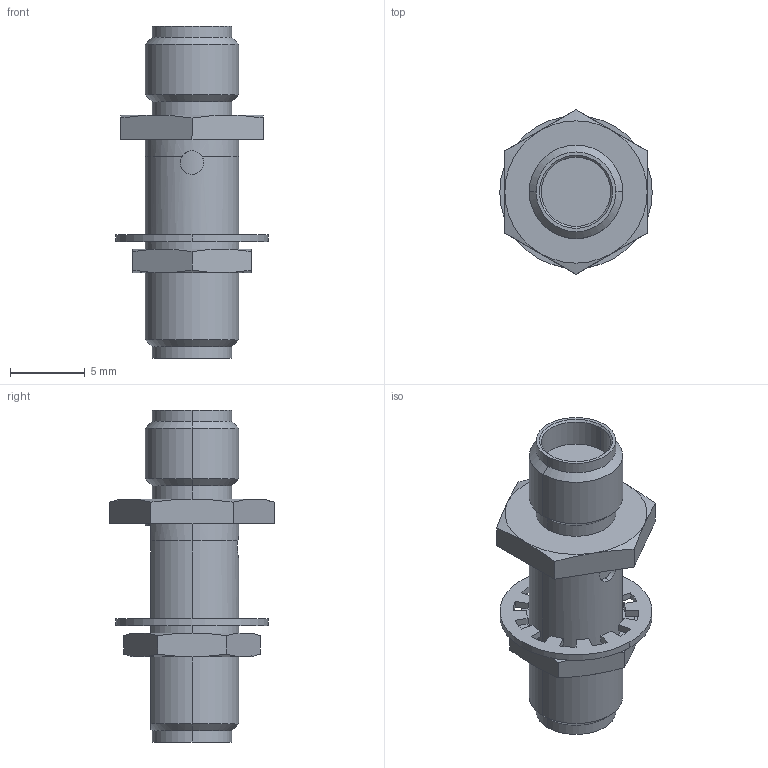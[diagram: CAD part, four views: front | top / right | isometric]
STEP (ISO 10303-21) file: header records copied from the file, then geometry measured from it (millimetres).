
FILE_DESCRIPTION (( 'STEP AP214' ), '1' );
FILE_NAME ('2990-6005.STEP', '2015-05-05T21:35:57', ( 'image' ), ( '' ), 'SwSTEP 2.0', 'SolidWorks 2014', '' );
FILE_SCHEMA (( 'AUTOMOTIVE_DESIGN' ));
Length unit declared in the file: inch
Products named in the file (1): 2990-6005
Bounding box: 10.21 x 11 x 22.23 mm (x, y, z)
Volume: 713.9 mm3; surface area: 835.9 mm2
Topology: 2 solids, 2 shells, 132 faces, 334 edges, 210 vertices
Faces by surface type: cylinder 50, plane 50, cone 32
Entity records: 5819 total; most frequent: CARTESIAN_POINT 870, DIRECTION 677, ORIENTED_EDGE 668, EDGE_CURVE 334, AXIS2_PLACEMENT_3D 257, VERTEX_POINT 210, LINE 163, VECTOR 163
